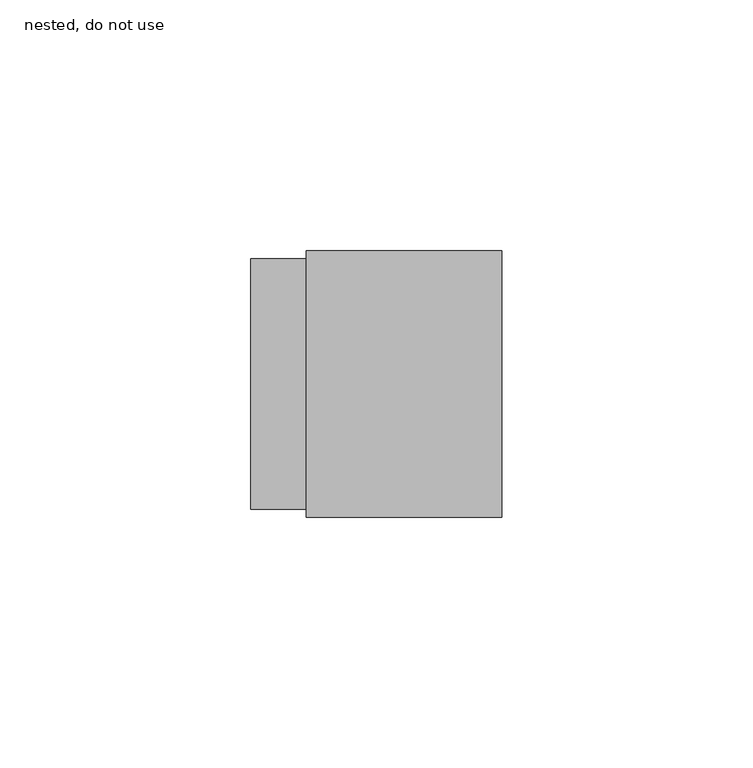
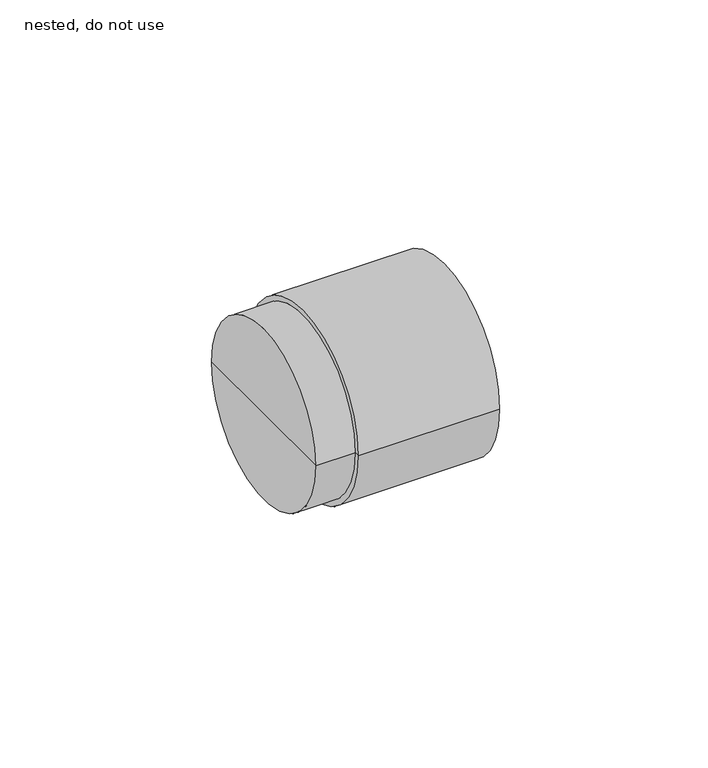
"""IFC4 building model written with IfcOpenShell, lengths in millimetres: pipe fitting geometry, ZZZ_do no use_PIF_HDPE trap connecting socket -SH_Akatherm : nested, do not use."""

import ifcopenshell
import ifcopenshell.guid

model = None  # the IFC model being written
_history = None  # IfcOwnerHistory: only IFC2X3 demands one
_inside = {}  # id of a spatial element -> (the spatial element, [elements in it])
_under = {}  # id of a project, library or spatial element -> (it, [spatial elements below it])
_declared = {}  # id of a project -> (the project, [libraries it declares])
_typed = {}  # id of a type object -> (the type object, [elements of that type])
_made_of = {}  # id of a material, layer set ... -> (it, [elements and type objects made of it])


def new_model(schema):
    """Start an empty IFC model of exactly this schema.

    Asked for "IFC4X3", IfcOpenShell would pick the latest addendum, in which some entities
    have other attributes; the version numbers below select the first issue.
    IFC2X3 requires an IfcOwnerHistory on every rooted entity: one is made here for all.
    """
    global model, _history
    if schema == "IFC4X3":
        model = ifcopenshell.file(schema_version=(4, 3, 0, 0))
    else:
        model = ifcopenshell.file(schema=schema)
    _inside.clear()
    _under.clear()
    _declared.clear()
    _typed.clear()
    _made_of.clear()
    _history = None
    if model.schema == "IFC2X3":
        org = make("IfcOrganization", Name="unknown")
        user = make(
            "IfcPersonAndOrganization",
            ThePerson=make("IfcPerson", FamilyName="unknown"),
            TheOrganization=org,
        )
        app = make(
            "IfcApplication",
            ApplicationDeveloper=org,
            Version="unknown",
            ApplicationFullName="unknown",
            ApplicationIdentifier="unknown",
        )
        _history = make(
            "IfcOwnerHistory",
            OwningUser=user,
            OwningApplication=app,
            ChangeAction="ADDED",
            CreationDate=0,
        )
    return model


def make(cls, **values):
    """One entity of the class cls with the attributes given. An attribute that is None is left unset."""
    return model.create_entity(
        cls, **{name: value for name, value in values.items() if value is not None}
    )


def rooted(cls, **values):
    """An entity with a GlobalId (a new one), such as an element, a storey or a relation."""
    return make(cls, GlobalId=ifcopenshell.guid.new(), OwnerHistory=_history, **values)


def si_unit(unit_type, name, prefix=None):
    """IfcSIUnit, for example si_unit("LENGTHUNIT", "METRE", prefix="MILLI")."""
    return make("IfcSIUnit", UnitType=unit_type, Prefix=prefix, Name=name)


def assignment(units):
    """IfcUnitAssignment: the units of a project."""
    return None if units is None else make("IfcUnitAssignment", Units=units)


def point(xyz):
    """IfcCartesianPoint."""
    return None if xyz is None else make("IfcCartesianPoint", Coordinates=xyz)


def direction(xyz):
    """IfcDirection."""
    return None if xyz is None else make("IfcDirection", DirectionRatios=xyz)


def frame(location, z_axis=None, x_axis=None):
    """IfcAxis2Placement3D, a coordinate frame: its origin and axes. An axis left out is left unset."""
    return make(
        "IfcAxis2Placement3D",
        Location=point(location),
        Axis=direction(z_axis),
        RefDirection=direction(x_axis),
    )


def origin():
    """The frame at (0, 0, 0) with its axes left unset."""
    return frame((0.0, 0.0, 0.0))


def place(relative_to, where):
    """IfcLocalPlacement: puts the frame where relative to a parent placement (None: the world)."""
    return make(
        "IfcLocalPlacement", PlacementRelTo=relative_to, RelativePlacement=where
    )


def context(
    kind, dimensions, precision=None, world=None, true_north=None, identifier=None
):
    """IfcGeometricRepresentationContext, for example the 3D "Model" context."""
    return make(
        "IfcGeometricRepresentationContext",
        ContextIdentifier=identifier,
        ContextType=kind,
        CoordinateSpaceDimension=dimensions,
        Precision=precision,
        WorldCoordinateSystem=world,
        TrueNorth=true_north,
    )


def project(units=None, contexts=None):
    """IfcProject with its units and contexts."""
    return rooted(
        "IfcProject",
        Name="project",
        RepresentationContexts=contexts,
        UnitsInContext=assignment(units),
    )


def spatial(cls, under=None, at=None, **own):
    """A site, building, storey or space (cls), placed at a placement, below another one or the project."""
    s = rooted(cls, ObjectPlacement=at, **own)
    if under is not None:
        _under.setdefault(under.id(), (under, []))[1].append(s)
    return s


def circle_curve(where, radius):
    """IfcCircle in the frame where."""
    return make("IfcCircle", Position=where, Radius=radius)


def shape(context_of_items, identifier, shape_type, items):
    """IfcShapeRepresentation: the items that make up one representation, for example the "Body"."""
    return make(
        "IfcShapeRepresentation",
        ContextOfItems=context_of_items,
        RepresentationIdentifier=identifier,
        RepresentationType=shape_type,
        Items=items,
    )


def source(mapping_origin, context_of_items, identifier, shape_type, items):
    """IfcRepresentationMap: a shape defined once, which mapped items show again and again."""
    return make(
        "IfcRepresentationMap",
        MappingOrigin=mapping_origin,
        MappedRepresentation=shape(context_of_items, identifier, shape_type, items),
    )


def transform(
    local_origin,
    x_axis=None,
    y_axis=None,
    z_axis=None,
    scale=None,
    scale2=None,
    scale3=None,
    uniform=True,
):
    """IfcCartesianTransformationOperator3D, or its non-uniform kind. x_axis, y_axis, z_axis: its Axis1, 2, 3."""
    if uniform:
        return make(
            "IfcCartesianTransformationOperator3D",
            Axis1=direction(x_axis),
            Axis2=direction(y_axis),
            LocalOrigin=point(local_origin),
            Scale=scale,
            Axis3=direction(z_axis),
        )
    return make(
        "IfcCartesianTransformationOperator3DnonUniform",
        Axis1=direction(x_axis),
        Axis2=direction(y_axis),
        LocalOrigin=point(local_origin),
        Scale=scale,
        Axis3=direction(z_axis),
        Scale2=scale2,
        Scale3=scale3,
    )


def mapped(mapping_source, mapping_target):
    """IfcMappedItem: shows the shape of a source again, moved by a transform."""
    return make(
        "IfcMappedItem", MappingSource=mapping_source, MappingTarget=mapping_target
    )


def made_of(thing, what):
    """Note that an element or type object is made of a material, layer set ...; save() writes the relation."""
    if what is not None:
        _made_of.setdefault(what.id(), (what, []))[1].append(thing)
    return thing


def element(
    cls,
    number,
    at=None,
    inside=None,
    cuts=None,
    type_object=None,
    material=None,
    context=None,
    identifier="Body",
    shape_type=None,
    held_by="IfcProductDefinitionShape",
    body=None,
    shapes=None,
    **own,
):
    """One element of the class cls, such as IfcWall. Its Tag is "e" and its number.

    at: its placement. inside: the storey or other place that contains it. cuts: it is an
    opening in that element (IfcRelVoidsElement). A single representation is given by context,
    identifier, shape_type and body (its items); several are given by shapes. held_by: the class
    of the entity that holds the representations. save() writes the other relations.
    """
    e = rooted(cls, Tag="e%d" % number, ObjectPlacement=at, **own)
    if body is not None:
        shapes = [shape(context, identifier, shape_type, body)]
    if shapes is not None:
        e.Representation = make(held_by, Representations=shapes)
    if inside is not None:
        _inside.setdefault(inside.id(), (inside, []))[1].append(e)
    if cuts is not None:
        rooted(
            "IfcRelVoidsElement", RelatingBuildingElement=cuts, RelatedOpeningElement=e
        )
    if type_object is not None:
        _typed.setdefault(type_object.id(), (type_object, []))[1].append(e)
    return made_of(e, material)


def aggregate(whole, parts):
    """IfcRelAggregates: a whole, such as a stair, and the parts it consists of."""
    return rooted("IfcRelAggregates", RelatingObject=whole, RelatedObjects=parts)


def save(model, path):
    """Write the relations noted so far, then the file.

    IfcRelAggregates (storeys below a building ...), IfcRelContainedInSpatialStructure (elements
    in a storey), IfcRelDefinesByType, IfcRelAssociatesMaterial and IfcRelDeclares: one each for
    every whole, place, type object, material and project.
    """
    for whole, parts in _under.values():
        aggregate(whole, parts)
    for where, things in _inside.values():
        rooted(
            "IfcRelContainedInSpatialStructure",
            RelatedElements=things,
            RelatingStructure=where,
        )
    for kind, things in _typed.values():
        rooted("IfcRelDefinesByType", RelatedObjects=things, RelatingType=kind)
    for what, things in _made_of.values():
        rooted("IfcRelAssociatesMaterial", RelatedObjects=things, RelatingMaterial=what)
    for by, libraries in _declared.values():
        rooted("IfcRelDeclares", RelatingContext=by, RelatedDefinitions=libraries)
    model.write(path)


def plane_surface(at):
    """IfcPlane: the flat surface through the origin of the frame at, square to its z axis."""
    return make("IfcPlane", Position=at)


def cylinder_surface(at, radius):
    """IfcCylindricalSurface: all points at the distance radius from the z axis of the frame at."""
    return make("IfcCylindricalSurface", Position=at, Radius=radius)


def advanced_brep(points, edges, surfaces, faces):
    """IfcAdvancedBrep: a solid bounded by faces that lie on surfaces and meet in shared edges.

    An edge is (start, end): straight between two places in points (the first is 0);
    or (start, end, curve); or (start, end, curve, False) where it runs against its curve.
    A face is (place in surfaces, loops), or (place, loops, False) where it looks against
    its surface's normal. A loop lists edges by number (the first is 1), with a minus sign
    where the edge is run from its end to its start. The first loop is the outer one.
    """
    corners = [point(p) for p in points]
    vertices = [make("IfcVertexPoint", VertexGeometry=c) for c in corners]
    made = []
    for start, end, *more in edges:
        made.append(
            make(
                "IfcEdgeCurve",
                EdgeStart=vertices[start],
                EdgeEnd=vertices[end],
                EdgeGeometry=more[0] if more else make("IfcPolyline", Points=[corners[start], corners[end]]),
                SameSense=more[1] if len(more) > 1 else True,
            )
        )
    hull = []
    for where, loops, *sense in faces:
        bounds = []
        for j, loop in enumerate(loops):
            ring = [make("IfcOrientedEdge", EdgeElement=made[abs(k) - 1], Orientation=k > 0) for k in loop]
            bounds.append(
                make(
                    "IfcFaceOuterBound" if j == 0 else "IfcFaceBound",
                    Bound=make("IfcEdgeLoop", EdgeList=ring),
                    Orientation=True,
                )
            )
        hull.append(make("IfcAdvancedFace", Bounds=bounds, FaceSurface=surfaces[where], SameSense=sense[0] if sense else True))
    return make("IfcAdvancedBrep", Outer=make("IfcClosedShell", CfsFaces=hull))


def nested_do_not_use_7e7c9079(model_context):
    return source(origin(), model_context, "Body", "AdvancedBrep", [
        advanced_brep(
        [(25.0, -26.5, 0.0), (25.0, 26.5, 0.0), (25.0, 0.0, 0.0), (-14.0, -26.5, 0.0), (-14.0, 26.5, 0.0), (-14.0, -25.0, 0.0), (-14.0, 25.0, 0.0), (-25.0, -25.0, 0.0), (-25.0, 25.0, 0.0), (-25.0, 0.0, 0.0)],
        [
            (0, 1, circle_curve(frame((25.0, 0.0, 0.0), z_axis=(1.0, 0.0, 0.0), x_axis=(0.0, 1.0, 0.0)), 26.5)),
            (1, 2),
            (2, 0),
            (1, 0, circle_curve(frame((25.0, 0.0, 0.0), z_axis=(1.0, 0.0, 0.0), x_axis=(0.0, 1.0, 0.0)), 26.5)),
            (3, 4, circle_curve(frame((-14.0, 0.0, 0.0), z_axis=(1.0, 0.0, 0.0), x_axis=(0.0, 1.0, 0.0)), 26.5)),
            (4, 1),
            (0, 3),
            (4, 3, circle_curve(frame((-14.0, 0.0, 0.0), z_axis=(1.0, 0.0, 0.0), x_axis=(0.0, 1.0, 0.0)), 26.5)),
            (5, 6, circle_curve(frame((-14.0, 0.0, 0.0), z_axis=(1.0, 0.0, 0.0), x_axis=(0.0, 1.0, 0.0)), 25.0)),
            (6, 4),
            (3, 5),
            (6, 5, circle_curve(frame((-14.0, 0.0, 0.0), z_axis=(1.0, 0.0, 0.0), x_axis=(0.0, 1.0, 0.0)), 25.0)),
            (7, 8, circle_curve(frame((-25.0, 0.0, 0.0), z_axis=(1.0, 0.0, 0.0), x_axis=(0.0, 1.0, 0.0)), 25.0)),
            (8, 6),
            (5, 7),
            (8, 7, circle_curve(frame((-25.0, 0.0, 0.0), z_axis=(1.0, 0.0, 0.0), x_axis=(0.0, 1.0, 0.0)), 25.0)),
            (9, 8),
            (7, 9),
        ],
        [
            plane_surface(frame((25.0, 0.0, 0.0), z_axis=(1.0, 0.0, 0.0), x_axis=(0.0, 1.0, 0.0))),
            cylinder_surface(frame((-35.565785, 0.0, 0.0), z_axis=(-1.0, 0.0, 0.0), x_axis=(0.0, 1.0, 0.0)), 26.5),
            plane_surface(frame((-14.0, 0.0, 0.0), z_axis=(-1.0, 0.0, 0.0), x_axis=(0.0, 1.0, 0.0))),
            cylinder_surface(frame((-35.565785, 0.0, 0.0), z_axis=(-1.0, 0.0, 0.0), x_axis=(0.0, 1.0, 0.0)), 25.0),
            plane_surface(frame((-25.0, 0.0, 0.0), z_axis=(-1.0, 0.0, 0.0), x_axis=(0.0, 1.0, 0.0))),
        ],
        [
            (0, [[1, 2, 3]]),
            (0, [[4, -3, -2]]),
            (1, [[5, 6, -1, 7]]),
            (1, [[8, -7, -4, -6]]),
            (2, [[9, 10, -5, 11]]),
            (2, [[12, -11, -8, -10]]),
            (3, [[13, 14, -9, 15]]),
            (3, [[16, -15, -12, -14]]),
            (4, [[17, -13, 18]]),
            (4, [[-18, -16, -17]]),
        ],
    ),
    ])


if __name__ == "__main__":
    model = new_model("IFC4")
    model_context = context("Model", 3, world=origin())
    ifc_project = project(units=[si_unit("LENGTHUNIT", "METRE", prefix="MILLI")], contexts=[model_context])
    site = spatial("IfcSite", under=ifc_project)
    building = spatial("IfcBuilding", under=site)
    placement = place(None, origin())
    nested_do_not_use_shape = nested_do_not_use_7e7c9079(model_context)
    element("IfcPipeFitting", 1, ObjectType="ZZZ_do no use_PIF_HDPE trap connecting socket -SH_Akatherm : nested, do not use", at=placement, inside=building, context=model_context, shape_type="MappedRepresentation", body=[
        mapped(nested_do_not_use_shape, transform((0.0, 0.0, 0.0), x_axis=(1.0, 0.0, 0.0), y_axis=(0.0, 1.0, 0.0), z_axis=(0.0, 0.0, 1.0))),
    ])
    save(model, "model.ifc")
